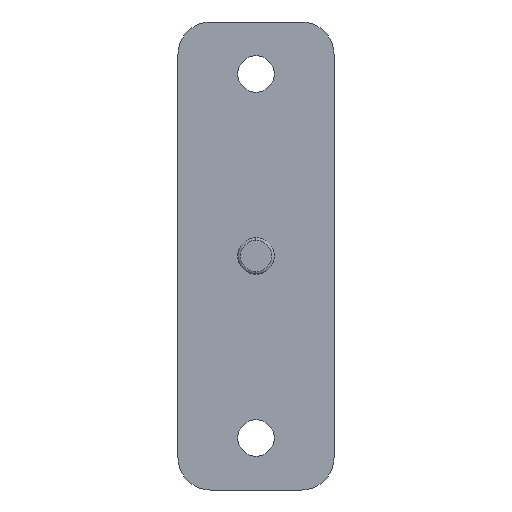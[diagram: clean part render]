
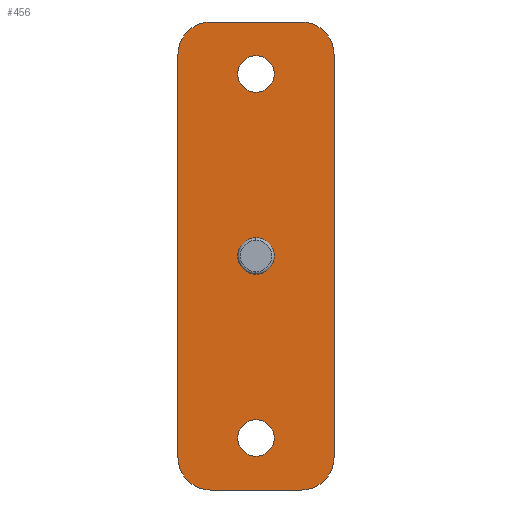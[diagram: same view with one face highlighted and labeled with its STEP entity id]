
A CAD part, front view. The second image highlights one B-rep face of the part: STEP entity #456.
In plain terms, the highlighted planar face has unit normal (0, -1, 0).
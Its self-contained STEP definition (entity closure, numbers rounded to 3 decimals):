
#38 = ORIENTED_EDGE ( 'NONE', *, *, #1902, .T. ) ;
#45 = EDGE_CURVE ( 'NONE', #1439, #2316, #1281, .T. ) ;
#64 = DIRECTION ( 'NONE',  ( 0., 0., -1. ) ) ;
#83 = AXIS2_PLACEMENT_3D ( 'NONE', #1956, #1772, #64 ) ;
#89 = CIRCLE ( 'NONE', #2181, 1.4 ) ;
#98 = LINE ( 'NONE', #2409, #286 ) ;
#107 = CARTESIAN_POINT ( 'NONE',  ( -158.763, -197.5, 271.7 ) ) ;
#119 = DIRECTION ( 'NONE',  ( 0., -1., 0. ) ) ;
#140 = AXIS2_PLACEMENT_3D ( 'NONE', #2360, #2174, #2136 ) ;
#157 = EDGE_CURVE ( 'NONE', #1416, #1613, #1000, .T. ) ;
#161 = DIRECTION ( 'NONE',  ( 0., 0., -1. ) ) ;
#196 = LINE ( 'NONE', #1187, #2145 ) ;
#230 = VERTEX_POINT ( 'NONE', #977 ) ;
#286 = VECTOR ( 'NONE', #1975, 1000. ) ;
#288 = CARTESIAN_POINT ( 'NONE',  ( -165.764, -197.5, 271.7 ) ) ;
#292 = VERTEX_POINT ( 'NONE', #1021 ) ;
#299 = VERTEX_POINT ( 'NONE', #472 ) ;
#315 = EDGE_CURVE ( 'NONE', #940, #1543, #607, .T. ) ;
#345 = DIRECTION ( 'NONE',  ( 0., 0., -1. ) ) ;
#386 = DIRECTION ( 'NONE',  ( 0., -1., 0. ) ) ;
#390 = VERTEX_POINT ( 'NONE', #2386 ) ;
#414 = CIRCLE ( 'NONE', #1041, 1.4 ) ;
#429 = VERTEX_POINT ( 'NONE', #1065 ) ;
#430 = CARTESIAN_POINT ( 'NONE',  ( -158.763, -197.5, 274.2 ) ) ;
#432 = ORIENTED_EDGE ( 'NONE', *, *, #45, .F. ) ;
#453 = EDGE_CURVE ( 'NONE', #390, #429, #841, .T. ) ;
#456 = ADVANCED_FACE ( 'NONE', ( #2211, #1806, #1428, #1479 ), #911, .T. ) ;
#469 = EDGE_CURVE ( 'NONE', #1543, #390, #98, .T. ) ;
#472 = CARTESIAN_POINT ( 'NONE',  ( -156.263, -197.5, 271.7 ) ) ;
#473 = ORIENTED_EDGE ( 'NONE', *, *, #1700, .F. ) ;
#488 = CARTESIAN_POINT ( 'NONE',  ( -168.264, -197.5, 175.907 ) ) ;
#489 = DIRECTION ( 'NONE',  ( 0., -1., 0. ) ) ;
#506 = CARTESIAN_POINT ( 'NONE',  ( -162.264, -197.5, 271.6 ) ) ;
#507 = ORIENTED_EDGE ( 'NONE', *, *, #1296, .F. ) ;
#512 = DIRECTION ( 'NONE',  ( 0., 0., -1. ) ) ;
#523 = AXIS2_PLACEMENT_3D ( 'NONE', #1265, #489, #345 ) ;
#569 = AXIS2_PLACEMENT_3D ( 'NONE', #701, #2369, #871 ) ;
#607 = CIRCLE ( 'NONE', #83, 2.5 ) ;
#611 = AXIS2_PLACEMENT_3D ( 'NONE', #107, #119, #1216 ) ;
#629 = CARTESIAN_POINT ( 'NONE',  ( -162.264, -197.5, 254.8 ) ) ;
#661 = DIRECTION ( 'NONE',  ( 0., -1., 0. ) ) ;
#669 = ORIENTED_EDGE ( 'NONE', *, *, #315, .T. ) ;
#701 = CARTESIAN_POINT ( 'NONE',  ( -166.797, -197.5, 175.907 ) ) ;
#726 = ORIENTED_EDGE ( 'NONE', *, *, #1906, .T. ) ;
#782 = CARTESIAN_POINT ( 'NONE',  ( -162.264, -197.5, 270.2 ) ) ;
#817 = VECTOR ( 'NONE', #953, 1000. ) ;
#837 = LINE ( 'NONE', #488, #1333 ) ;
#841 = CIRCLE ( 'NONE', #1556, 2.5 ) ;
#871 = DIRECTION ( 'NONE',  ( 0., 0., -1. ) ) ;
#905 = DIRECTION ( 'NONE',  ( 0., -1., 0. ) ) ;
#911 = PLANE ( 'NONE',  #569 ) ;
#930 = CARTESIAN_POINT ( 'NONE',  ( -162.264, -197.5, 242.2 ) ) ;
#940 = VERTEX_POINT ( 'NONE', #1104 ) ;
#942 = DIRECTION ( 'NONE',  ( 0., 0., -1. ) ) ;
#953 = DIRECTION ( 'NONE',  ( -1., 0., 0. ) ) ;
#963 = CARTESIAN_POINT ( 'NONE',  ( -168.004, -197.5, 274.2 ) ) ;
#970 = ORIENTED_EDGE ( 'NONE', *, *, #1058, .T. ) ;
#977 = CARTESIAN_POINT ( 'NONE',  ( -168.264, -197.5, 271.7 ) ) ;
#1000 = CIRCLE ( 'NONE', #2292, 1.4 ) ;
#1007 = CIRCLE ( 'NONE', #611, 2.5 ) ;
#1021 = CARTESIAN_POINT ( 'NONE',  ( -162.264, -197.5, 240.8 ) ) ;
#1041 = AXIS2_PLACEMENT_3D ( 'NONE', #930, #905, #2205 ) ;
#1042 = DIRECTION ( 'NONE',  ( 0., 0., -1. ) ) ;
#1055 = ORIENTED_EDGE ( 'NONE', *, *, #453, .T. ) ;
#1058 = EDGE_CURVE ( 'NONE', #1590, #230, #1678, .T. ) ;
#1065 = CARTESIAN_POINT ( 'NONE',  ( -156.263, -197.5, 240.7 ) ) ;
#1104 = CARTESIAN_POINT ( 'NONE',  ( -168.264, -197.5, 240.7 ) ) ;
#1134 = ORIENTED_EDGE ( 'NONE', *, *, #469, .T. ) ;
#1143 = DIRECTION ( 'NONE',  ( 0., 0., -1. ) ) ;
#1144 = EDGE_CURVE ( 'NONE', #299, #1893, #1007, .T. ) ;
#1156 = VERTEX_POINT ( 'NONE', #1401 ) ;
#1187 = CARTESIAN_POINT ( 'NONE',  ( -156.263, -197.5, 175.907 ) ) ;
#1216 = DIRECTION ( 'NONE',  ( 0., 0., -1. ) ) ;
#1265 = CARTESIAN_POINT ( 'NONE',  ( -162.264, -197.5, 256.2 ) ) ;
#1281 = CIRCLE ( 'NONE', #523, 1.4 ) ;
#1296 = EDGE_CURVE ( 'NONE', #1613, #1416, #1946, .T. ) ;
#1327 = DIRECTION ( 'NONE',  ( 0., 0., 1. ) ) ;
#1333 = VECTOR ( 'NONE', #1957, 1000. ) ;
#1348 = CARTESIAN_POINT ( 'NONE',  ( -162.264, -197.5, 257.6 ) ) ;
#1364 = AXIS2_PLACEMENT_3D ( 'NONE', #2394, #1501, #161 ) ;
#1367 = EDGE_CURVE ( 'NONE', #292, #1156, #89, .T. ) ;
#1401 = CARTESIAN_POINT ( 'NONE',  ( -162.264, -197.5, 243.6 ) ) ;
#1416 = VERTEX_POINT ( 'NONE', #1947 ) ;
#1428 = FACE_BOUND ( 'NONE', #2041, .T. ) ;
#1439 = VERTEX_POINT ( 'NONE', #629 ) ;
#1448 = CARTESIAN_POINT ( 'NONE',  ( -165.764, -197.5, 274.2 ) ) ;
#1479 = FACE_OUTER_BOUND ( 'NONE', #1696, .T. ) ;
#1501 = DIRECTION ( 'NONE',  ( 0., -1., 0. ) ) ;
#1531 = ORIENTED_EDGE ( 'NONE', *, *, #1144, .T. ) ;
#1535 = DIRECTION ( 'NONE',  ( 0., -1., 0. ) ) ;
#1543 = VERTEX_POINT ( 'NONE', #1768 ) ;
#1556 = AXIS2_PLACEMENT_3D ( 'NONE', #1991, #1642, #512 ) ;
#1570 = LINE ( 'NONE', #963, #817 ) ;
#1573 = ORIENTED_EDGE ( 'NONE', *, *, #1367, .F. ) ;
#1590 = VERTEX_POINT ( 'NONE', #1448 ) ;
#1613 = VERTEX_POINT ( 'NONE', #506 ) ;
#1642 = DIRECTION ( 'NONE',  ( 0., -1., 0. ) ) ;
#1678 = CIRCLE ( 'NONE', #1983, 2.5 ) ;
#1696 = EDGE_LOOP ( 'NONE', ( #38, #970, #1871, #669, #1134, #1055, #726, #1531 ) ) ;
#1700 = EDGE_CURVE ( 'NONE', #1156, #292, #414, .T. ) ;
#1737 = EDGE_LOOP ( 'NONE', ( #1802, #432 ) ) ;
#1768 = CARTESIAN_POINT ( 'NONE',  ( -165.764, -197.5, 238.2 ) ) ;
#1772 = DIRECTION ( 'NONE',  ( 0., -1., 0. ) ) ;
#1795 = CIRCLE ( 'NONE', #140, 1.4 ) ;
#1799 = ORIENTED_EDGE ( 'NONE', *, *, #157, .F. ) ;
#1802 = ORIENTED_EDGE ( 'NONE', *, *, #2048, .F. ) ;
#1806 = FACE_BOUND ( 'NONE', #2197, .T. ) ;
#1871 = ORIENTED_EDGE ( 'NONE', *, *, #2006, .T. ) ;
#1893 = VERTEX_POINT ( 'NONE', #430 ) ;
#1902 = EDGE_CURVE ( 'NONE', #1893, #1590, #1570, .T. ) ;
#1906 = EDGE_CURVE ( 'NONE', #429, #299, #196, .T. ) ;
#1946 = CIRCLE ( 'NONE', #1364, 1.4 ) ;
#1947 = CARTESIAN_POINT ( 'NONE',  ( -162.264, -197.5, 268.8 ) ) ;
#1956 = CARTESIAN_POINT ( 'NONE',  ( -165.764, -197.5, 240.7 ) ) ;
#1957 = DIRECTION ( 'NONE',  ( 0., 0., -1. ) ) ;
#1975 = DIRECTION ( 'NONE',  ( 1., 0., 0. ) ) ;
#1983 = AXIS2_PLACEMENT_3D ( 'NONE', #288, #661, #1042 ) ;
#1991 = CARTESIAN_POINT ( 'NONE',  ( -158.763, -197.5, 240.7 ) ) ;
#2006 = EDGE_CURVE ( 'NONE', #230, #940, #837, .T. ) ;
#2041 = EDGE_LOOP ( 'NONE', ( #1573, #473 ) ) ;
#2048 = EDGE_CURVE ( 'NONE', #2316, #1439, #1795, .T. ) ;
#2072 = CARTESIAN_POINT ( 'NONE',  ( -162.264, -197.5, 242.2 ) ) ;
#2136 = DIRECTION ( 'NONE',  ( 0., 0., -1. ) ) ;
#2145 = VECTOR ( 'NONE', #1327, 1000. ) ;
#2174 = DIRECTION ( 'NONE',  ( 0., -1., 0. ) ) ;
#2181 = AXIS2_PLACEMENT_3D ( 'NONE', #2072, #386, #1143 ) ;
#2197 = EDGE_LOOP ( 'NONE', ( #1799, #507 ) ) ;
#2205 = DIRECTION ( 'NONE',  ( 0., 0., -1. ) ) ;
#2211 = FACE_BOUND ( 'NONE', #1737, .T. ) ;
#2292 = AXIS2_PLACEMENT_3D ( 'NONE', #782, #1535, #942 ) ;
#2316 = VERTEX_POINT ( 'NONE', #1348 ) ;
#2360 = CARTESIAN_POINT ( 'NONE',  ( -162.264, -197.5, 256.2 ) ) ;
#2369 = DIRECTION ( 'NONE',  ( 0., -1., 0. ) ) ;
#2386 = CARTESIAN_POINT ( 'NONE',  ( -158.763, -197.5, 238.2 ) ) ;
#2394 = CARTESIAN_POINT ( 'NONE',  ( -162.264, -197.5, 270.2 ) ) ;
#2409 = CARTESIAN_POINT ( 'NONE',  ( -168.004, -197.5, 238.2 ) ) ;
